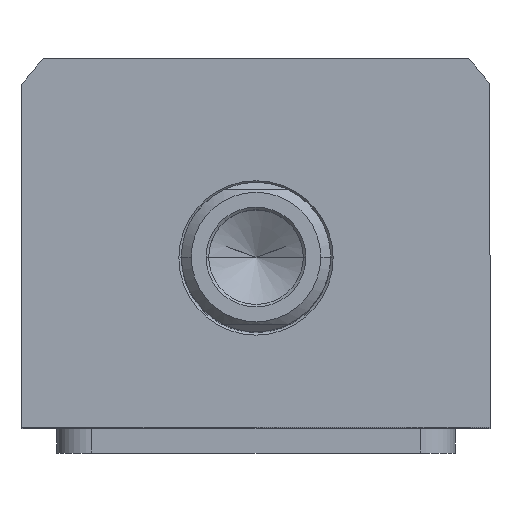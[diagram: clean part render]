
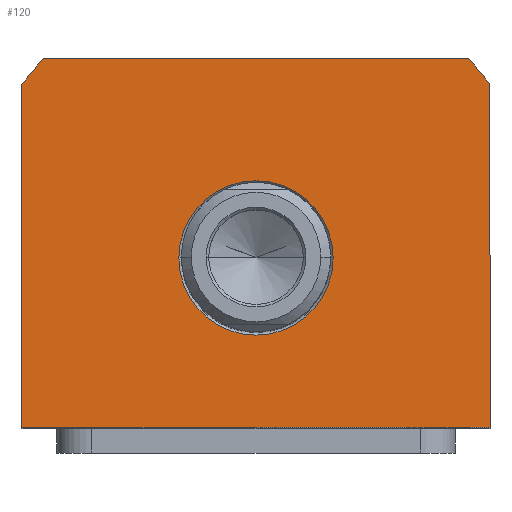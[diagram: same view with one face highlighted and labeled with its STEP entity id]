
A CAD part, top view. The second image highlights one B-rep face of the part: STEP entity #120.
In plain terms, the highlighted planar face has unit normal (0, 0, 1).
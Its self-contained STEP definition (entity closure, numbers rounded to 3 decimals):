
#41 = EDGE_CURVE ( 'NONE', #687, #4948, #3671, .T. ) ;
#67 = FACE_OUTER_BOUND ( 'NONE', #8652, .T. ) ;
#120 = ADVANCED_FACE ( 'NONE', ( #5666, #67 ), #6677, .T. ) ;
#557 = EDGE_LOOP ( 'NONE', ( #4570, #9066 ) ) ;
#607 = LINE ( 'NONE', #3518, #7643 ) ;
#610 = LINE ( 'NONE', #7042, #4360 ) ;
#687 = VERTEX_POINT ( 'NONE', #8357 ) ;
#970 = ORIENTED_EDGE ( 'NONE', *, *, #8809, .T. ) ;
#1274 = EDGE_CURVE ( 'NONE', #4898, #5176, #607, .T. ) ;
#1617 = DIRECTION ( 'NONE',  ( -1., 0., 0. ) ) ;
#1731 = ORIENTED_EDGE ( 'NONE', *, *, #1825, .T. ) ;
#1761 = AXIS2_PLACEMENT_3D ( 'NONE', #9366, #4828, #11254 ) ;
#1825 = EDGE_CURVE ( 'NONE', #2334, #4099, #3649, .T. ) ;
#2200 = CIRCLE ( 'NONE', #8507, 58.5 ) ;
#2334 = VERTEX_POINT ( 'NONE', #6141 ) ;
#2757 = CARTESIAN_POINT ( 'NONE',  ( -47., -34., 80. ) ) ;
#2910 = VERTEX_POINT ( 'NONE', #8271 ) ;
#3126 = DIRECTION ( 'NONE',  ( 0., 0., 1. ) ) ;
#3130 = CARTESIAN_POINT ( 'NONE',  ( 0., 0., 80. ) ) ;
#3208 = CARTESIAN_POINT ( 'NONE',  ( 47., -34., 80. ) ) ;
#3231 = ORIENTED_EDGE ( 'NONE', *, *, #9213, .T. ) ;
#3518 = CARTESIAN_POINT ( 'NONE',  ( -42.688, 40., 80. ) ) ;
#3649 = LINE ( 'NONE', #5275, #8239 ) ;
#3670 = CARTESIAN_POINT ( 'NONE',  ( 47., 34.832, 80. ) ) ;
#3671 = CIRCLE ( 'NONE', #1761, 15.5 ) ;
#4042 = DIRECTION ( 'NONE',  ( 1., 0., 0. ) ) ;
#4099 = VERTEX_POINT ( 'NONE', #2757 ) ;
#4273 = DIRECTION ( 'NONE',  ( 1., 0., 0. ) ) ;
#4331 = VECTOR ( 'NONE', #4042, 1000. ) ;
#4360 = VECTOR ( 'NONE', #11708, 1000. ) ;
#4570 = ORIENTED_EDGE ( 'NONE', *, *, #7795, .T. ) ;
#4797 = DIRECTION ( 'NONE',  ( 1., 0., 0. ) ) ;
#4828 = DIRECTION ( 'NONE',  ( 0., 0., -1. ) ) ;
#4898 = VERTEX_POINT ( 'NONE', #8418 ) ;
#4948 = VERTEX_POINT ( 'NONE', #6778 ) ;
#4962 = EDGE_CURVE ( 'NONE', #4099, #2910, #9228, .T. ) ;
#4981 = CARTESIAN_POINT ( 'NONE',  ( 0., 0., 80. ) ) ;
#5082 = CIRCLE ( 'NONE', #6593, 15.5 ) ;
#5160 = CARTESIAN_POINT ( 'NONE',  ( 0., 0., 80. ) ) ;
#5176 = VERTEX_POINT ( 'NONE', #5264 ) ;
#5264 = CARTESIAN_POINT ( 'NONE',  ( -42.688, 40., 80. ) ) ;
#5275 = CARTESIAN_POINT ( 'NONE',  ( -47., -34., 80. ) ) ;
#5310 = DIRECTION ( 'NONE',  ( 0., -1., 0. ) ) ;
#5666 = FACE_BOUND ( 'NONE', #557, .T. ) ;
#5729 = DIRECTION ( 'NONE',  ( 1., 0., 0. ) ) ;
#5845 = DIRECTION ( 'NONE',  ( 1., 0., 0. ) ) ;
#5884 = AXIS2_PLACEMENT_3D ( 'NONE', #3130, #8549, #5845 ) ;
#6141 = CARTESIAN_POINT ( 'NONE',  ( -47., 34.832, 80. ) ) ;
#6593 = AXIS2_PLACEMENT_3D ( 'NONE', #10436, #10404, #4797 ) ;
#6677 = PLANE ( 'NONE',  #5884 ) ;
#6778 = CARTESIAN_POINT ( 'NONE',  ( 15.5, 0., 80. ) ) ;
#7042 = CARTESIAN_POINT ( 'NONE',  ( 47., 34.832, 80. ) ) ;
#7074 = ORIENTED_EDGE ( 'NONE', *, *, #9497, .T. ) ;
#7504 = ORIENTED_EDGE ( 'NONE', *, *, #1274, .T. ) ;
#7643 = VECTOR ( 'NONE', #1617, 1000. ) ;
#7644 = CIRCLE ( 'NONE', #11214, 58.5 ) ;
#7795 = EDGE_CURVE ( 'NONE', #4948, #687, #5082, .T. ) ;
#7869 = DIRECTION ( 'NONE',  ( 0., 0., 1. ) ) ;
#8239 = VECTOR ( 'NONE', #5310, 1000. ) ;
#8271 = CARTESIAN_POINT ( 'NONE',  ( 47., -34., 80. ) ) ;
#8357 = CARTESIAN_POINT ( 'NONE',  ( -15.5, 0., 80. ) ) ;
#8418 = CARTESIAN_POINT ( 'NONE',  ( 42.688, 40., 80. ) ) ;
#8507 = AXIS2_PLACEMENT_3D ( 'NONE', #4981, #3126, #5729 ) ;
#8549 = DIRECTION ( 'NONE',  ( 0., 0., 1. ) ) ;
#8652 = EDGE_LOOP ( 'NONE', ( #10518, #3231, #970, #7504, #7074, #1731 ) ) ;
#8809 = EDGE_CURVE ( 'NONE', #10444, #4898, #2200, .T. ) ;
#9066 = ORIENTED_EDGE ( 'NONE', *, *, #41, .T. ) ;
#9213 = EDGE_CURVE ( 'NONE', #2910, #10444, #610, .T. ) ;
#9228 = LINE ( 'NONE', #3208, #4331 ) ;
#9366 = CARTESIAN_POINT ( 'NONE',  ( 0., 0., 80. ) ) ;
#9497 = EDGE_CURVE ( 'NONE', #5176, #2334, #7644, .T. ) ;
#10404 = DIRECTION ( 'NONE',  ( 0., 0., -1. ) ) ;
#10436 = CARTESIAN_POINT ( 'NONE',  ( 0., 0., 80. ) ) ;
#10444 = VERTEX_POINT ( 'NONE', #3670 ) ;
#10518 = ORIENTED_EDGE ( 'NONE', *, *, #4962, .T. ) ;
#11214 = AXIS2_PLACEMENT_3D ( 'NONE', #5160, #7869, #4273 ) ;
#11254 = DIRECTION ( 'NONE',  ( 1., 0., 0. ) ) ;
#11708 = DIRECTION ( 'NONE',  ( 0., 1., 0. ) ) ;
